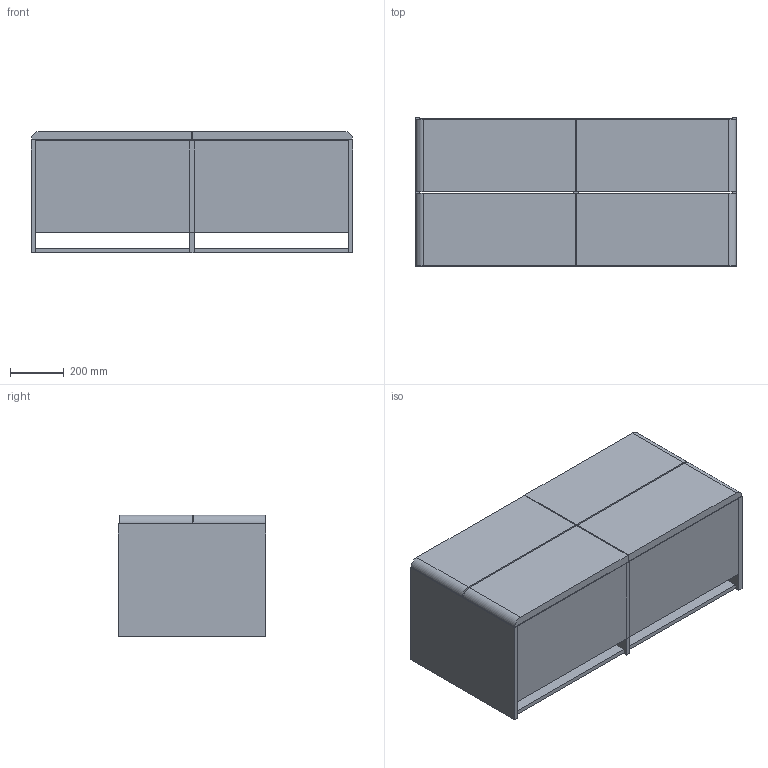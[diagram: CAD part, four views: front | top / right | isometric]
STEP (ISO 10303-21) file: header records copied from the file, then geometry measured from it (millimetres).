
FILE_DESCRIPTION(('FreeCAD Model'),'2;1');
FILE_NAME('Open CASCADE Shape Model','2025-05-30T14:00:49',(''),(''), 'Open CASCADE STEP processor 7.8','FreeCAD','Unknown');
FILE_SCHEMA(('AUTOMOTIVE_DESIGN { 1 0 10303 214 1 1 1 1 }'));
Length unit declared in the file: millimetre
Products named in the file (15): TopLevelAssembly; Wyci\X2\0105\X0\ganie004; Wyci\X2\0105\X0\ganie001; Wyci\X2\0105\X0\ganie002; Wyci\X2\0105\X0\ganie003; Wyci\X2\0105\X0\ganie005; Wyci\X2\0105\X0\ganie008; Wyci\X2\0105\X0\ganie006; Wyci\X2\0105\X0\ganie007; Wyci\X2\0105\X0\ganie009; Po\X2\01420105\X0\czona geometria bry\X2\0142\X0\owa004; Po\X2\01420105\X0\czona geometria bry\X2\0142\X0\owa; Po\X2\01420105\X0\czona geometria bry\X2\0142\X0\owa001; Po\X2\01420105\X0\czona geometria bry\X2\0142\X0\owa002; Po\X2\01420105\X0\czona geometria bry\X2\0142\X0\owa003
Assembly tree (14 placements, depth 3):
  TopLevelAssembly
    Wyci\X2\0105\X0\ganie004
      Wyci\X2\0105\X0\ganie001
      Wyci\X2\0105\X0\ganie002
      Wyci\X2\0105\X0\ganie003
    Wyci\X2\0105\X0\ganie005
    Wyci\X2\0105\X0\ganie008
      Wyci\X2\0105\X0\ganie006
      Wyci\X2\0105\X0\ganie007
    Wyci\X2\0105\X0\ganie009
    Po\X2\01420105\X0\czona geometria bry\X2\0142\X0\owa004
      Po\X2\01420105\X0\czona geometria bry\X2\0142\X0\owa
      Po\X2\01420105\X0\czona geometria bry\X2\0142\X0\owa001
      Po\X2\01420105\X0\czona geometria bry\X2\0142\X0\owa002
      Po\X2\01420105\X0\czona geometria bry\X2\0142\X0\owa003
Bounding box: 1195 x 550 x 451 mm (x, y, z)
Volume: 41522799 mm3; surface area: 4545398.7 mm2
Topology: 11 solids, 11 shells, 66 faces, 132 edges, 88 vertices
Faces by surface type: plane 62, cylinder 4
Entity records: 2038 total; most frequent: DIRECTION 302, CARTESIAN_POINT 301, ORIENTED_EDGE 264, EDGE_CURVE 132, LINE 124, VECTOR 124, AXIS2_PLACEMENT_3D 89, VERTEX_POINT 88
